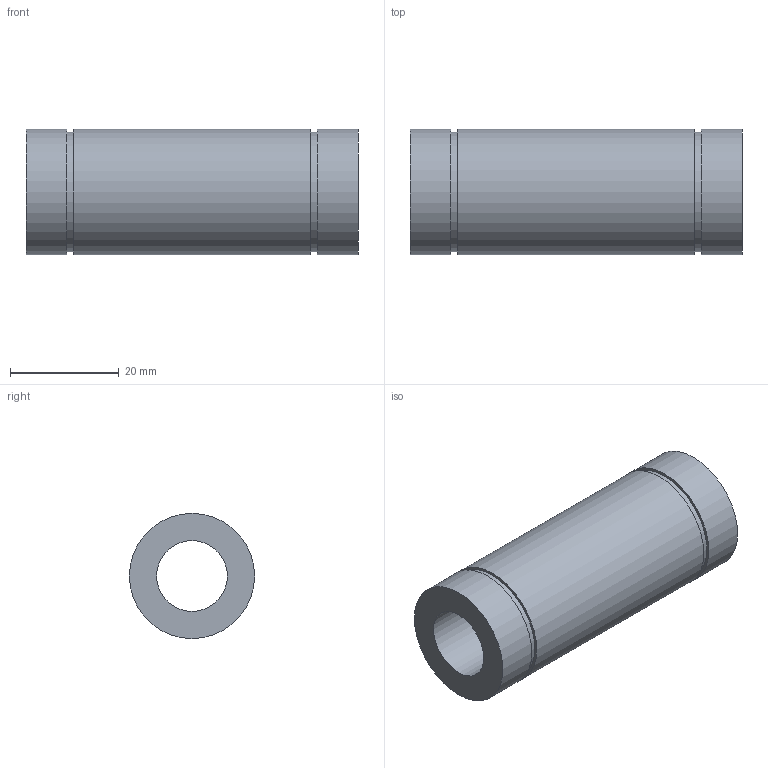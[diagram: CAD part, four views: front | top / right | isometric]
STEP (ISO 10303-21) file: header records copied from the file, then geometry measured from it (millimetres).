
FILE_DESCRIPTION(/* description */ ('Unknown'),/* implementation_level */ '2;1');
FILE_NAME(/* name */ 'LM13LUU',/* time_stamp */ '2025-02-03T14:58:35+08:00',/* author */ ('Unknown'),/* organization */ ('Unknown'),/* preprocessor_version */ 'ST-DEVELOPER v18.102',/* originating_system */ 'Solid Edge',/* authorisation */ 'Unknown');
FILE_SCHEMA (('AUTOMOTIVE_DESIGN {1 0 10303 214 3 1 1}'));
Length unit declared in the file: millimetre
Products named in the file (1): LM13LUU
Bounding box: 61 x 23 x 23 mm (x, y, z)
Volume: 17155.5 mm3; surface area: 7597.6 mm2
Topology: 1 solids, 1 shells, 12 faces, 20 edges, 14 vertices
Faces by surface type: cylinder 6, plane 6
Full cylindrical faces by diameter (mm): 13 x1, 22 x2, 23 x3
Entity records: 278 total; most frequent: DIRECTION 50, CARTESIAN_POINT 37, AXIS2_PLACEMENT_3D 25, ORIENTED_EDGE 24, EDGE_LOOP 24, FACE_BOUND 24, EDGE_CURVE 12, VERTEX_POINT 12
